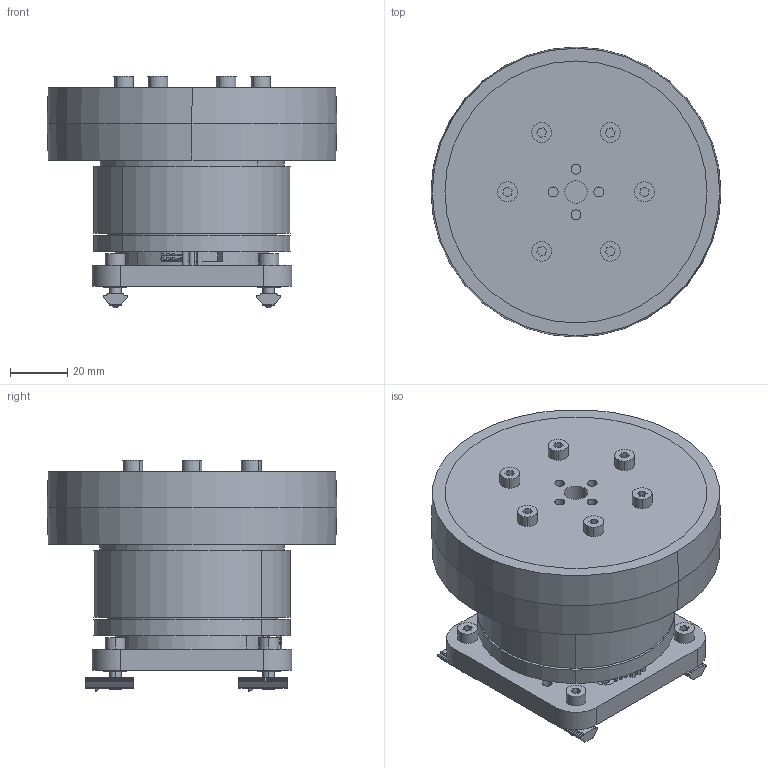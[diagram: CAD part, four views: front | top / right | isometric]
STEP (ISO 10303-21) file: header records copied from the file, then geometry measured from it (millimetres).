
FILE_DESCRIPTION (( 'STEP AP214' ), '1' );
FILE_NAME ('Wheel_kit_AS.STEP', '2023-05-16T07:14:44', ( '' ), ( '' ), 'SwSTEP 2.0', 'SolidWorks 2019', '' );
FILE_SCHEMA (( 'AUTOMOTIVE_DESIGN' ));
Length unit declared in the file: millimetre
Products named in the file (59): 14; 6; 7; 9; 12; 4; 1; 3; 15; 11; 10; 5; Wheel_kit_AS; 13; 2; 8
Assembly tree (46 placements, depth 4):
  6
  7
  7
  12
  4
Bounding box: 101.6 x 101.6 x 81.2 mm (x, y, z)
Volume: 139651.8 mm3; surface area: 108851.2 mm2
Topology: 31 solids, 45 shells, 1772 faces, 4513 edges, 2856 vertices
Faces by surface type: cylinder 729, plane 479, bspline 377, cone 171, sphere 16
Full cylindrical faces by diameter (mm): 2.529 x4
Entity records: 84832 total; most frequent: CARTESIAN_POINT 51785, ORIENTED_EDGE 7233, DIRECTION 5906, EDGE_CURVE 3638, AXIS2_PLACEMENT_3D 2357, VERTEX_POINT 2298, EDGE_LOOP 1562, ADVANCED_FACE 1417
